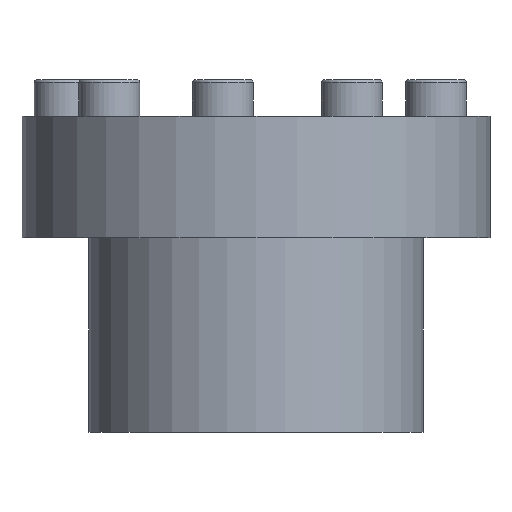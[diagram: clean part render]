
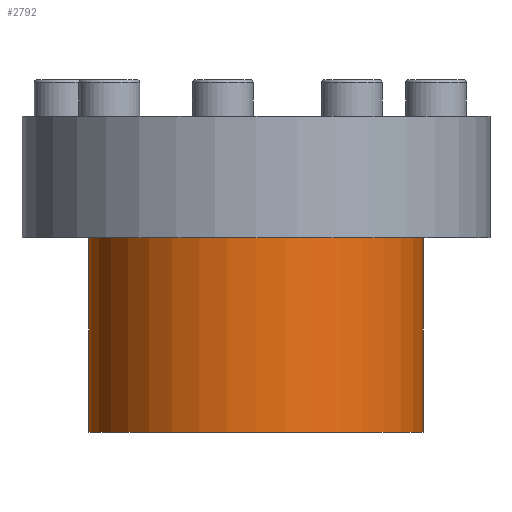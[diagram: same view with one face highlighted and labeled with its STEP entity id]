
A CAD part, front view. The second image highlights one B-rep face of the part: STEP entity #2792.
In plain terms, the highlighted cylindrical face has radius 27.5 mm (diameter 55 mm), a partial arc.
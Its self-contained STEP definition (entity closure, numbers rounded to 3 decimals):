
#60 = CARTESIAN_POINT ( 'NONE',  ( -27.5, 0., -52. ) ) ;
#173 = AXIS2_PLACEMENT_3D ( 'NONE', #2791, #1486, #964 ) ;
#293 = ORIENTED_EDGE ( 'NONE', *, *, #1609, .T. ) ;
#345 = DIRECTION ( 'NONE',  ( 1., 0., 0. ) ) ;
#491 = FACE_OUTER_BOUND ( 'NONE', #1547, .T. ) ;
#612 = ORIENTED_EDGE ( 'NONE', *, *, #1628, .T. ) ;
#628 = EDGE_CURVE ( 'NONE', #1375, #2349, #2368, .T. ) ;
#675 = AXIS2_PLACEMENT_3D ( 'NONE', #2665, #2944, #345 ) ;
#717 = EDGE_CURVE ( 'NONE', #2349, #2206, #2612, .T. ) ;
#771 = ORIENTED_EDGE ( 'NONE', *, *, #628, .F. ) ;
#860 = CYLINDRICAL_SURFACE ( 'NONE', #3312, 27.5 ) ;
#964 = DIRECTION ( 'NONE',  ( 1., 0., 0. ) ) ;
#1069 = CARTESIAN_POINT ( 'NONE',  ( 0., 0., 0. ) ) ;
#1216 = DIRECTION ( 'NONE',  ( 0., 0., 1. ) ) ;
#1375 = VERTEX_POINT ( 'NONE', #60 ) ;
#1486 = DIRECTION ( 'NONE',  ( 0., 0., 1. ) ) ;
#1547 = EDGE_LOOP ( 'NONE', ( #771, #293, #612, #2646 ) ) ;
#1556 = VERTEX_POINT ( 'NONE', #1712 ) ;
#1564 = CIRCLE ( 'NONE', #173, 27.5 ) ;
#1572 = DIRECTION ( 'NONE',  ( 0., 0., 1. ) ) ;
#1580 = CARTESIAN_POINT ( 'NONE',  ( -27.5, 0., 0. ) ) ;
#1609 = EDGE_CURVE ( 'NONE', #1375, #1556, #1564, .T. ) ;
#1628 = EDGE_CURVE ( 'NONE', #1556, #2206, #3388, .T. ) ;
#1712 = CARTESIAN_POINT ( 'NONE',  ( 27.5, 0., -52. ) ) ;
#1715 = CARTESIAN_POINT ( 'NONE',  ( 27.5, 0., -20. ) ) ;
#1772 = CARTESIAN_POINT ( 'NONE',  ( 27.5, 0., 0. ) ) ;
#2013 = VECTOR ( 'NONE', #1216, 1000. ) ;
#2051 = CARTESIAN_POINT ( 'NONE',  ( -27.5, 0., -20. ) ) ;
#2206 = VERTEX_POINT ( 'NONE', #1715 ) ;
#2349 = VERTEX_POINT ( 'NONE', #2051 ) ;
#2368 = LINE ( 'NONE', #1580, #2533 ) ;
#2533 = VECTOR ( 'NONE', #2627, 1000. ) ;
#2612 = CIRCLE ( 'NONE', #675, 27.5 ) ;
#2627 = DIRECTION ( 'NONE',  ( 0., 0., 1. ) ) ;
#2646 = ORIENTED_EDGE ( 'NONE', *, *, #717, .F. ) ;
#2665 = CARTESIAN_POINT ( 'NONE',  ( 0., 0., -20. ) ) ;
#2791 = CARTESIAN_POINT ( 'NONE',  ( 0., 0., -52. ) ) ;
#2792 = ADVANCED_FACE ( 'NONE', ( #491 ), #860, .T. ) ;
#2881 = DIRECTION ( 'NONE',  ( 1., 0., 0. ) ) ;
#2944 = DIRECTION ( 'NONE',  ( 0., 0., 1. ) ) ;
#3312 = AXIS2_PLACEMENT_3D ( 'NONE', #1069, #1572, #2881 ) ;
#3388 = LINE ( 'NONE', #1772, #2013 ) ;
